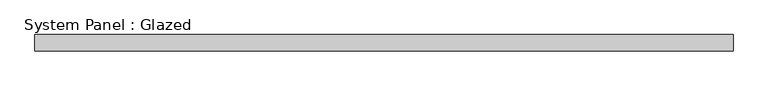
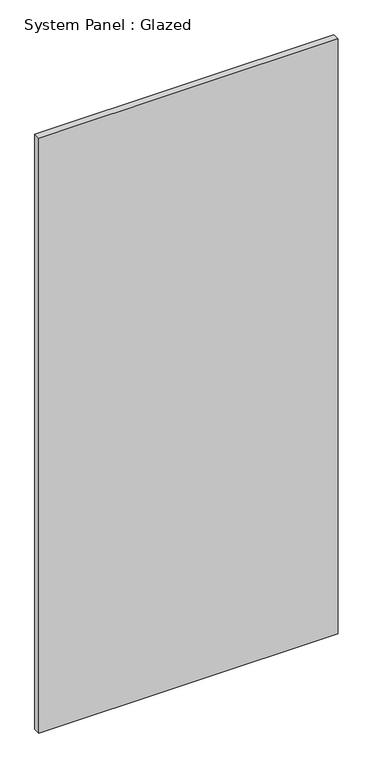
"""IFC4 building model written with IfcOpenShell, lengths in millimetres: plate geometry, System Panel : Glazed."""

from ifc_helpers import new_model, si_unit, origin, origin_with_axes, place, context, project, spatial, polyline, outline, extrude, source, transform, mapped, element, save


def system_panel_glazed_c5d443fe(model_context):
    return source(origin(), model_context, "Body", "SweptSolid", [
        extrude(outline(polyline([(541.726465, -12.5), (-541.726465, -12.5), (-541.726465, 12.5), (541.726465, 12.5), (541.726465, -12.5)])), origin_with_axes(), (0.0, 0.0, 1.0), 2275.0),
    ])


if __name__ == "__main__":
    model = new_model("IFC4")
    model_context = context("Model", 3, world=origin())
    ifc_project = project(units=[si_unit("LENGTHUNIT", "METRE", prefix="MILLI")], contexts=[model_context])
    site = spatial("IfcSite", under=ifc_project)
    building = spatial("IfcBuilding", under=site)
    placement = place(None, origin())
    system_panel_glazed_shape = system_panel_glazed_c5d443fe(model_context)
    element("IfcPlate", 1, ObjectType="System Panel : Glazed", at=placement, inside=building, context=model_context, shape_type="MappedRepresentation", body=[
        mapped(system_panel_glazed_shape, transform((0.0, 0.0, 0.0), x_axis=(1.0, 0.0, 0.0), y_axis=(0.0, 1.0, 0.0), z_axis=(0.0, 0.0, 1.0))),
    ])
    save(model, "model.ifc")
